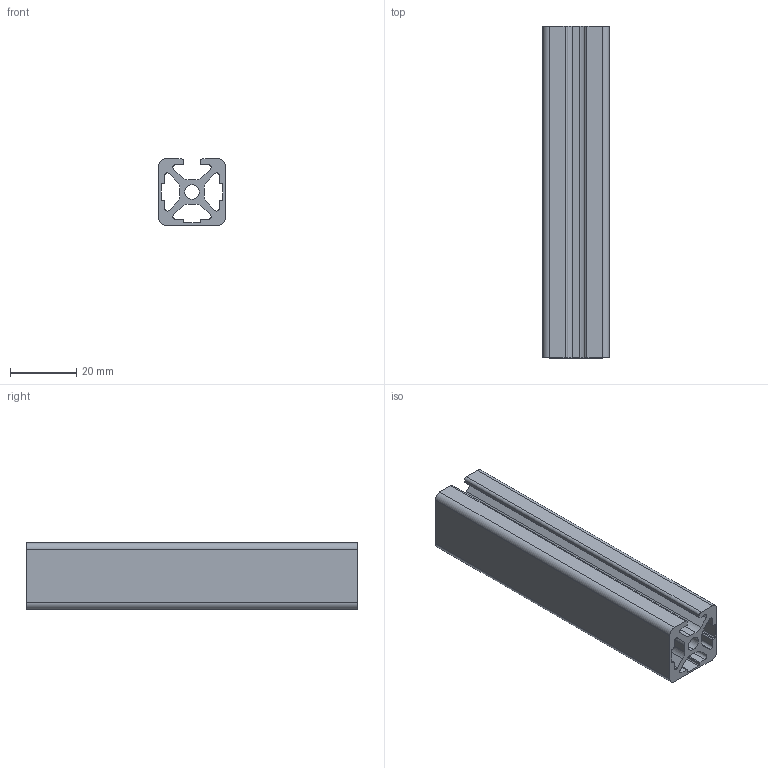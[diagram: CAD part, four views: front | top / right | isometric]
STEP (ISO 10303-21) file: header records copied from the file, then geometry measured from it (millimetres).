
FILE_DESCRIPTION (( 'STEP AP203' ), '1' );
FILE_NAME ('0105P2020-3N.STEP', '2024-02-27T13:45:19', ( 'Windows-Benutzer' ), ( '' ), 'SwSTEP 2.0', 'SolidWorks 2023', '' );
FILE_SCHEMA (( 'CONFIG_CONTROL_DESIGN' ));
Length unit declared in the file: millimetre
Products named in the file (1): 0105P2020-3N
Bounding box: 20 x 100 x 20 mm (x, y, z)
Volume: 19529.2 mm3; surface area: 20010.8 mm2
Topology: 1 solids, 1 shells, 78 faces, 228 edges, 152 vertices
Faces by surface type: cylinder 40, plane 38
Entity records: 2705 total; most frequent: DIRECTION 466, CARTESIAN_POINT 459, ORIENTED_EDGE 456, EDGE_CURVE 228, AXIS2_PLACEMENT_3D 159, VERTEX_POINT 152, VECTOR 148, LINE 148
